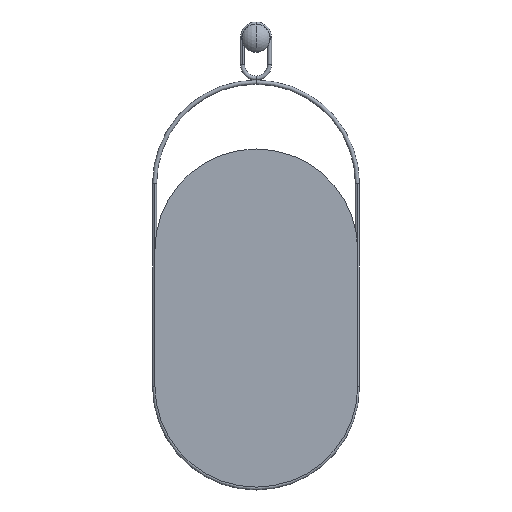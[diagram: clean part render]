
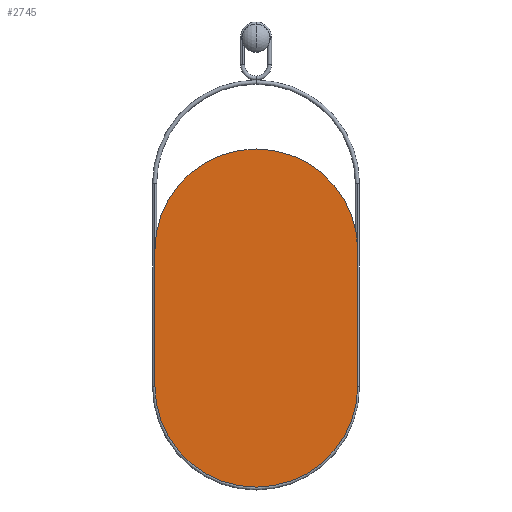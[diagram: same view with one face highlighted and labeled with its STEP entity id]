
A CAD part, top view. The second image highlights one B-rep face of the part: STEP entity #2745.
In plain terms, the highlighted planar face has unit normal (0, 0, 1).
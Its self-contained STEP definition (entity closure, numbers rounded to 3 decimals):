
#38 = DIRECTION ( 'NONE',  ( -1., 0., 0. ) ) ;
#74 = VECTOR ( 'NONE', #383, 1000. ) ;
#285 = DIRECTION ( 'NONE',  ( 0., 0., 1. ) ) ;
#339 = EDGE_CURVE ( 'NONE', #1100, #585, #2025, .T. ) ;
#383 = DIRECTION ( 'NONE',  ( 0., 1., 0. ) ) ;
#401 = ORIENTED_EDGE ( 'NONE', *, *, #2183, .T. ) ;
#505 = PLANE ( 'NONE',  #1585 ) ;
#585 = VERTEX_POINT ( 'NONE', #1321 ) ;
#622 = VERTEX_POINT ( 'NONE', #2040 ) ;
#746 = EDGE_CURVE ( 'NONE', #585, #622, #2139, .T. ) ;
#798 = CARTESIAN_POINT ( 'NONE',  ( 300., 200., 3. ) ) ;
#888 = CARTESIAN_POINT ( 'NONE',  ( 0., 0., 3. ) ) ;
#1100 = VERTEX_POINT ( 'NONE', #798 ) ;
#1169 = CARTESIAN_POINT ( 'NONE',  ( 150., 0., 3. ) ) ;
#1194 = CARTESIAN_POINT ( 'NONE',  ( 300., 0., 3. ) ) ;
#1196 = DIRECTION ( 'NONE',  ( 0., 0., 1. ) ) ;
#1321 = CARTESIAN_POINT ( 'NONE',  ( 0., 200., 3. ) ) ;
#1384 = DIRECTION ( 'NONE',  ( 0., -1., 0. ) ) ;
#1585 = AXIS2_PLACEMENT_3D ( 'NONE', #2392, #2158, #1684 ) ;
#1649 = EDGE_CURVE ( 'NONE', #3032, #1100, #2668, .T. ) ;
#1660 = AXIS2_PLACEMENT_3D ( 'NONE', #1169, #1196, #2108 ) ;
#1684 = DIRECTION ( 'NONE',  ( -1., 0., 0. ) ) ;
#1789 = CARTESIAN_POINT ( 'NONE',  ( 300., 200., 3. ) ) ;
#1827 = AXIS2_PLACEMENT_3D ( 'NONE', #2453, #285, #38 ) ;
#1836 = VECTOR ( 'NONE', #1384, 1000. ) ;
#1917 = ORIENTED_EDGE ( 'NONE', *, *, #339, .T. ) ;
#2025 = CIRCLE ( 'NONE', #1827, 150. ) ;
#2040 = CARTESIAN_POINT ( 'NONE',  ( 0., 0., 3. ) ) ;
#2108 = DIRECTION ( 'NONE',  ( -1., 0., 0. ) ) ;
#2139 = LINE ( 'NONE', #888, #1836 ) ;
#2158 = DIRECTION ( 'NONE',  ( 0., 0., -1. ) ) ;
#2183 = EDGE_CURVE ( 'NONE', #622, #3032, #2926, .T. ) ;
#2392 = CARTESIAN_POINT ( 'NONE',  ( 150., 0., 3. ) ) ;
#2413 = FACE_OUTER_BOUND ( 'NONE', #2967, .T. ) ;
#2429 = ORIENTED_EDGE ( 'NONE', *, *, #746, .T. ) ;
#2453 = CARTESIAN_POINT ( 'NONE',  ( 150., 200., 3. ) ) ;
#2668 = LINE ( 'NONE', #1789, #74 ) ;
#2726 = ORIENTED_EDGE ( 'NONE', *, *, #1649, .T. ) ;
#2745 = ADVANCED_FACE ( 'NONE', ( #2413 ), #505, .F. ) ;
#2926 = CIRCLE ( 'NONE', #1660, 150. ) ;
#2967 = EDGE_LOOP ( 'NONE', ( #401, #2726, #1917, #2429 ) ) ;
#3032 = VERTEX_POINT ( 'NONE', #1194 ) ;
